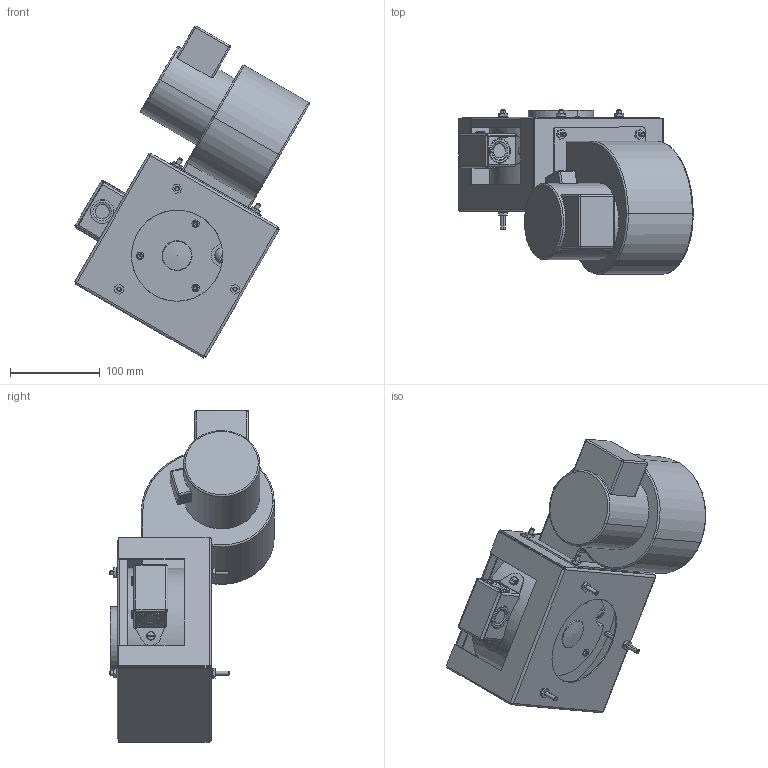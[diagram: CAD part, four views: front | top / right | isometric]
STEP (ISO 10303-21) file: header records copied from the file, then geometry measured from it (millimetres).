
FILE_DESCRIPTION (( 'STEP AP214' ), '1' );
FILE_NAME ('25MBA90S_stp.step', '2026-05-12T20:40:03', ( '' ), ( '' ), 'SwSTEP 2.0', 'SolidWorks 2025', '' );
FILE_SCHEMA (( 'AUTOMOTIVE_DESIGN' ));
Length unit declared in the file: inch
Products named in the file (1): 25MBA90S_stp
Bounding box: 261.25 x 183.34 x 369.82 mm (x, y, z)
Volume: 1523976.6 mm3; surface area: 649415.5 mm2
Topology: 3 solids, 16 shells, 1376 faces, 3363 edges, 2051 vertices
Faces by surface type: plane 549, cylinder 434, torus 190, cone 139, bspline 46, sphere 18
Entity records: 44978 total; most frequent: CARTESIAN_POINT 11576, DIRECTION 7590, ORIENTED_EDGE 6688, EDGE_CURVE 3344, AXIS2_PLACEMENT_3D 3109, VERTEX_POINT 2048, CIRCLE 1778, EDGE_LOOP 1558
